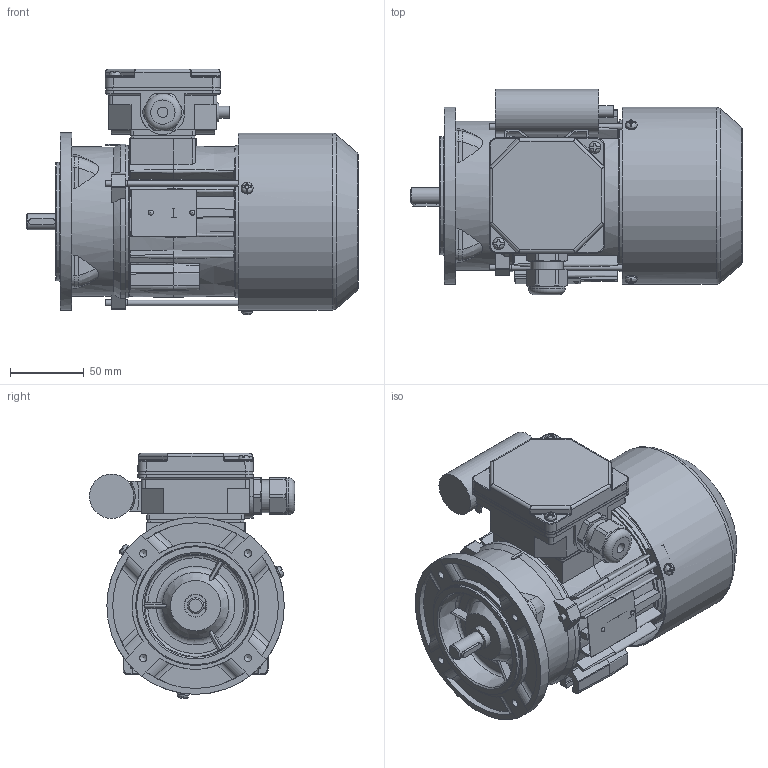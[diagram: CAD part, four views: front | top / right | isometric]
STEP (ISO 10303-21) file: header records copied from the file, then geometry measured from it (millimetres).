
FILE_DESCRIPTION( ( 'Unknown' ), '1' );
FILE_NAME( 'G:/Poczta Tk-1/STP/w.m.63/SEh63/SE(M)Kh63-C1.stp', 'Unknown', ( 'K. Szlosek' ), ( 'BESEL S.A.' ), 'PSStep 17.0.49', 'Unknown', ' ' );
FILE_SCHEMA( ( 'AUTOMOTIVE_DESIGN { 1 0 10303 214 1 1 1 1 }' ) );
Length unit declared in the file: millimetre
Products named in the file (32): Assem1; K3-9973 Kadłub ze stojanem wykończonym Sh63-C; K3-5320 Tarcza łożyskowa P Sg63; K4-2320 Uszczelka nr 1 Sh71,80; Wpust A4x4x18; K3-5321 osłona przewietrznika Sg63; K4-2820 Uszczelka nr 2 Sh71,80; K2-0860 Pokrywka skrzynki zaciskowej; Wkręt samogwintujący M4x16; K4-0898 Tulejka uszczelniająca; Kondensator zb 8-10uF; K2-1769 Przewietrznik Sg63; Wkręt samogwintujący M4x8; K3-9974 wał Sh63-C standard; K3-9440 Podstawa  skrzynki zaciskowej SEhR71-D; K3-1974 Uchwyt kondensatora (mały); K1-1111 Tarcza kołnierzowa w.m. 63 IMB14_1; Dławnica M20x1,5; Łożysko 6202; Śruba ściągająca E_M4x100; Tabliczka znamionowa 32x44; Nitokołek A 2x6
Assembly tree (48 placements, depth 2):
  Assem1
    K3-9973 Kadłub ze stojanem wykończonym Sh63-C
    K3-5320 Tarcza łożyskowa P Sg63
    K4-2320 Uszczelka nr 1 Sh71,80
    Wpust A4x4x18
    K3-5321 osłona przewietrznika Sg63
    K4-2820 Uszczelka nr 2 Sh71,80
    K2-0860 Pokrywka skrzynki zaciskowej
    Wkręt samogwintujący M4x16  x2
    K4-0898 Tulejka uszczelniająca
    Kondensator zb 8-10uF
    K2-1769 Przewietrznik Sg63
    Wkręt samogwintujący M4x8  x3
    K3-9974 wał Sh63-C standard
    K3-9440 Podstawa  skrzynki zaciskowej SEhR71-D
    K3-1974 Uchwyt kondensatora (mały)
    K1-1111 Tarcza kołnierzowa w.m. 63 IMB14_1
    Dławnica M20x1,5
    Łożysko 6202  x2
    Łożysko 6202  x2
    Łożysko 6202  x2
    Łożysko 6202  x2
    Łożysko 6202  x2
    Łożysko 6202  x2
    Łożysko 6202  x2
    Łożysko 6202  x2
    Łożysko 6202  x2
    Łożysko 6202  x2
    Łożysko 6202  x2
    Śruba ściągająca E_M4x100  x3
    Tabliczka znamionowa 32x44
    Nitokołek A 2x6  x2
Bounding box: 224.5 x 138.82 x 165.9 mm (x, y, z)
Volume: 584306.1 mm3; surface area: 373597.3 mm2
Topology: 48 solids, 66 shells, 1967 faces, 5397 edges, 3504 vertices
Faces by surface type: plane 966, cylinder 580, cone 130, torus 130, bspline 122, sphere 39
Full cylindrical faces by diameter (mm): 2 x2, 2.4 x2, 3 x1, 3.3 x3, 3.5 x2, 3.7 x10, 4 x8, 4.5 x4, 4.6 x1, 4.8 x4, 5 x8, 6.5 x1, 7 x4, 8 x7, 10 x2, 11 x1, 12.9 x1, 13.1 x1, 13.5 x1, 15 x4, 15.4 x2, 18.38 x1, 18.5 x1, 19 x2, 19.5 x1, 20 x2, 20.1 x1, 21.52 x4, 22.3 x1, 25 x1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
Entity records: 85251 total; most frequent: CARTESIAN_POINT 26962, ORIENTED_EDGE 9318, DIRECTION 8920, EDGE_CURVE 4659, AXIS2_PLACEMENT_3D 3320, VERTEX_POINT 3174, LINE 2280, VECTOR 2280
